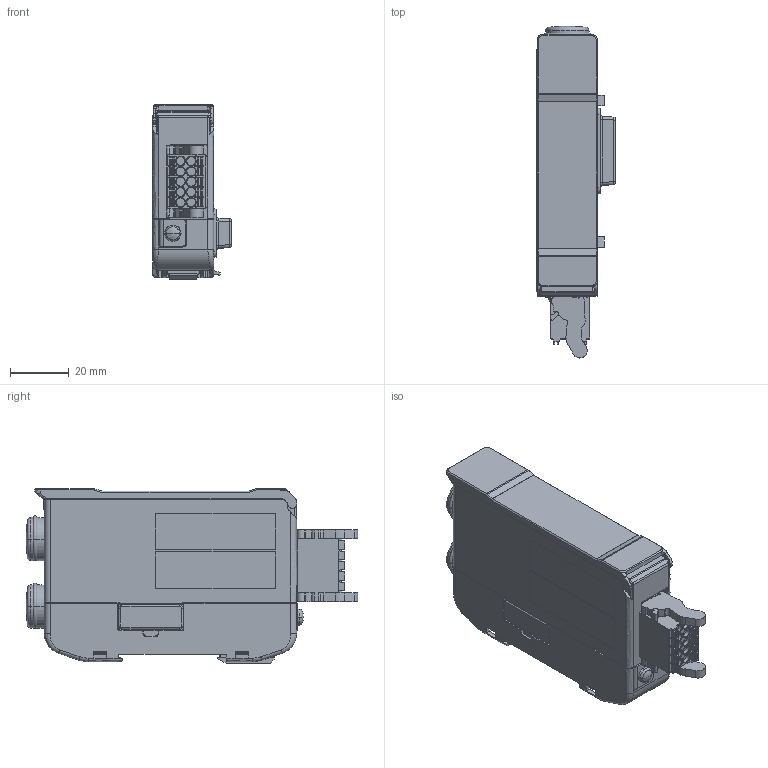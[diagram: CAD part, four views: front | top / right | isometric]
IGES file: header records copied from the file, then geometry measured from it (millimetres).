
Start section: Elysium IGES Interface
Global section: file name: C:\Users\u158450\Desktop\EJ COUNTER_3D.igs; native system: Creo Elements/Direct Modeling 18.1I  13-Aug-2016; preprocessor: Creo Element/Direct IGES_3D V2.2; author: Unknown; organization: Unknown; date: 20210222.083048; units: millimetre
Bounding box: 26.65 x 112.64 x 59.25 mm (x, y, z)
Volume: 104490.1 mm3; surface area: 29380.6 mm2
Topology: 6 solids, 7 shells, 1610 faces, 4419 edges, 2878 vertices
Faces by surface type: bspline 1610
